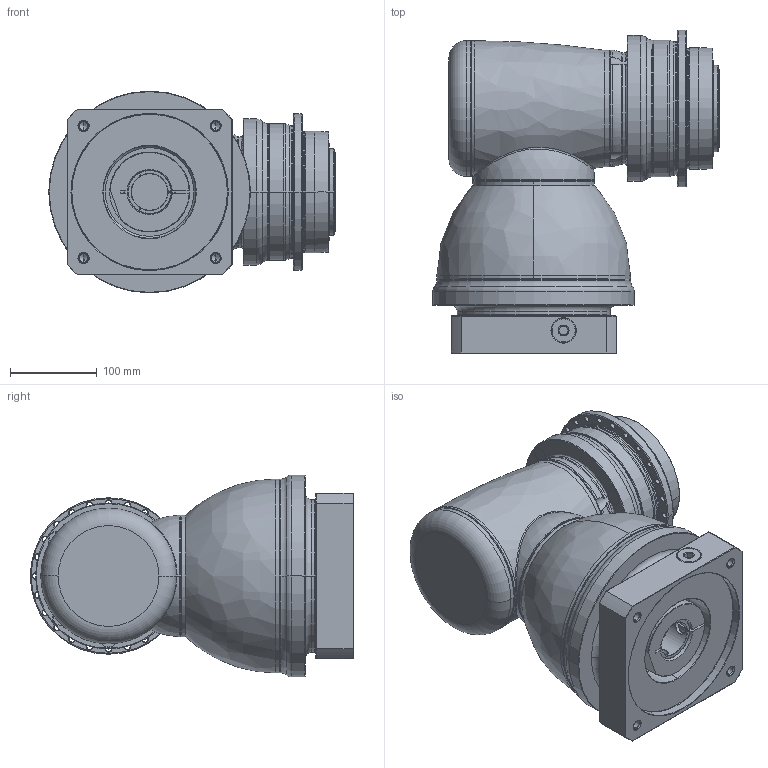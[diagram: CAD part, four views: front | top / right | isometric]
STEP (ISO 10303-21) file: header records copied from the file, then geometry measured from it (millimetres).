
FILE_DESCRIPTION((''),'2;1');
FILE_NAME('APK140_2ST_SBG_42-P0409A00201_ASM','2018-10-30T',('d01226'),(''),'PRO/ENGINEER BY PARAMETRIC TECHNOLOGY CORPORATION, 2015240','PRO/ENGINEER BY PARAMETRIC TECHNOLOGY CORPORATION, 2015240','');
FILE_SCHEMA(('CONFIG_CONTROL_DESIGN'));
Length unit declared in the file: millimetre
Products named in the file (13): P0278501003; P0359501103; P1211500001; P1802510011; P1018600002; P1365600001; P1007601001; P1318610301; P0503A00012; P0912603001; P0409A00201; 21711422019; APK140_2ST_SBG_42-P0409A00201_ASM
Assembly tree (12 placements, depth 2):
  APK140_2ST_SBG_42-P0409A00201_ASM
    P0278501003
    P0359501103
    P1211500001
    P1802510011
    P1018600002
    P1365600001
    P1007601001
    P1318610301
    P0503A00012
    P0912603001
    P0409A00201
    21711422019
Bounding box: 329.5 x 372 x 232 mm (x, y, z)
Volume: 11527690.1 mm3; surface area: 872355.4 mm2
Topology: 13 solids, 38 shells, 860 faces, 1968 edges, 1195 vertices
Faces by surface type: cylinder 355, cone 232, plane 145, torus 102, bspline 24, sphere 2
Entity records: 30708 total; most frequent: CARTESIAN_POINT 10607, DIRECTION 4613, ORIENTED_EDGE 3746, AXIS2_PLACEMENT_3D 1977, EDGE_CURVE 1924, VERTEX_POINT 1195, CIRCLE 1106, EDGE_LOOP 1029
